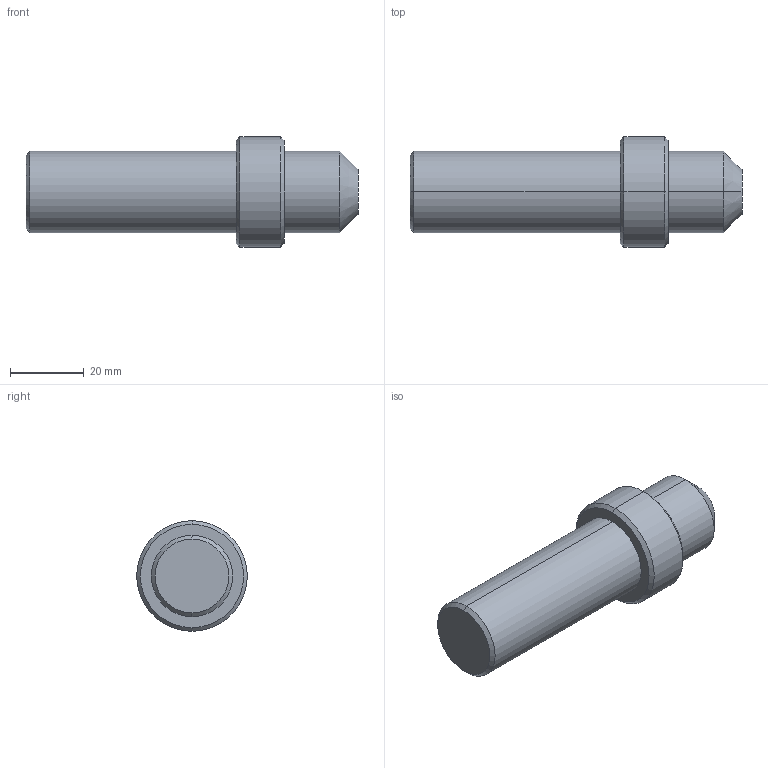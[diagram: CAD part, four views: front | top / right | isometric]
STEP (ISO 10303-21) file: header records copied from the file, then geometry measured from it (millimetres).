
FILE_DESCRIPTION (( 'STEP AP203' ), '1' );
FILE_NAME ('YWSD-2026-03-01-05-01=002 唅蛌种粣.STEP', '2026-07-24T07:34:55', ( 'Windows 蚚誧' ), ( '' ), 'SwSTEP 2.0', 'SolidWorks 2024', '' );
FILE_SCHEMA (( 'CONFIG_CONTROL_DESIGN' ));
Length unit declared in the file: millimetre
Products named in the file (1): YWSD-2026-03-01-05-01=002 旋转销轴
Bounding box: 90 x 30 x 30 mm (x, y, z)
Volume: 37600.7 mm3; surface area: 7571 mm2
Topology: 1 solids, 1 shells, 18 faces, 34 edges, 20 vertices
Faces by surface type: cone 8, cylinder 6, plane 4
Entity records: 531 total; most frequent: DIRECTION 92, CARTESIAN_POINT 73, ORIENTED_EDGE 68, AXIS2_PLACEMENT_3D 39, EDGE_CURVE 34, CIRCLE 20, VERTEX_POINT 20, EDGE_LOOP 20
